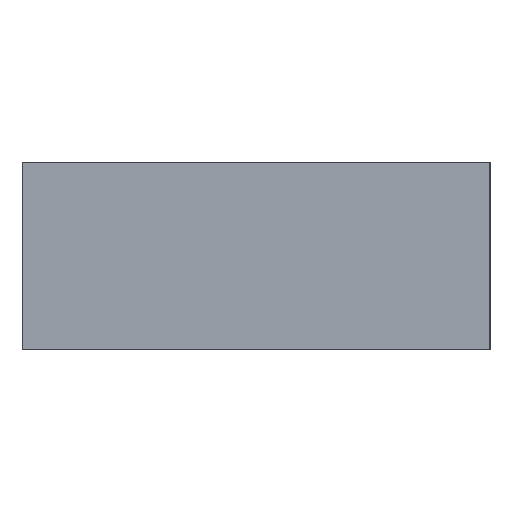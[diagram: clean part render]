
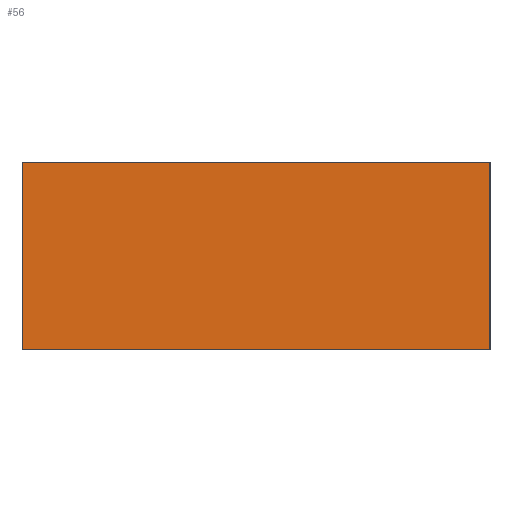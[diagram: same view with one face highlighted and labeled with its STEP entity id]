
A CAD part, left-side view. The second image highlights one B-rep face of the part: STEP entity #56.
In plain terms, the highlighted planar face has unit normal (-1, 0, 0).
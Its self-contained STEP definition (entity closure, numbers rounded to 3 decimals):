
#56=ADVANCED_FACE('',(#72),#73,.T.);
#72=FACE_OUTER_BOUND('',#93,.T.);
#73=PLANE('',#94);
#93=EDGE_LOOP('',(#139,#140,#141,#142));
#94=AXIS2_PLACEMENT_3D('',#143,#144,#145);
#139=ORIENTED_EDGE('',*,*,#190,.T.);
#140=ORIENTED_EDGE('',*,*,#191,.F.);
#141=ORIENTED_EDGE('',*,*,#192,.F.);
#142=ORIENTED_EDGE('',*,*,#188,.T.);
#143=CARTESIAN_POINT('',(0.,85.,-4.));
#144=DIRECTION('',(-1.0,0.0,0.0));
#145=DIRECTION('',(0.0,0.0,1.0));
#188=EDGE_CURVE('',#220,#218,#221,.T.);
#190=EDGE_CURVE('',#218,#223,#224,.T.);
#191=EDGE_CURVE('',#225,#223,#226,.T.);
#192=EDGE_CURVE('',#220,#225,#227,.T.);
#218=VERTEX_POINT('',#258);
#220=VERTEX_POINT('',#261);
#221=LINE('',#262,#263);
#223=VERTEX_POINT('',#266);
#224=LINE('',#267,#268);
#225=VERTEX_POINT('',#269);
#226=LINE('',#270,#271);
#227=LINE('',#272,#273);
#258=CARTESIAN_POINT('',(0.,85.,0.));
#261=CARTESIAN_POINT('',(0.,85.,-4.));
#262=CARTESIAN_POINT('',(0.,85.,-4.));
#263=VECTOR('',#308,0.75);
#266=CARTESIAN_POINT('',(0.,95.,0.));
#267=CARTESIAN_POINT('',(0.,85.,0.));
#268=VECTOR('',#310,1.0);
#269=CARTESIAN_POINT('',(0.,95.,-4.));
#270=CARTESIAN_POINT('',(0.,95.,-4.));
#271=VECTOR('',#311,0.75);
#272=CARTESIAN_POINT('',(0.,85.,-4.));
#273=VECTOR('',#312,1.0);
#308=DIRECTION('',(0.0,0.0,1.0));
#310=DIRECTION('',(0.0,1.0,0.0));
#311=DIRECTION('',(0.0,0.0,1.0));
#312=DIRECTION('',(0.0,1.0,0.0));
